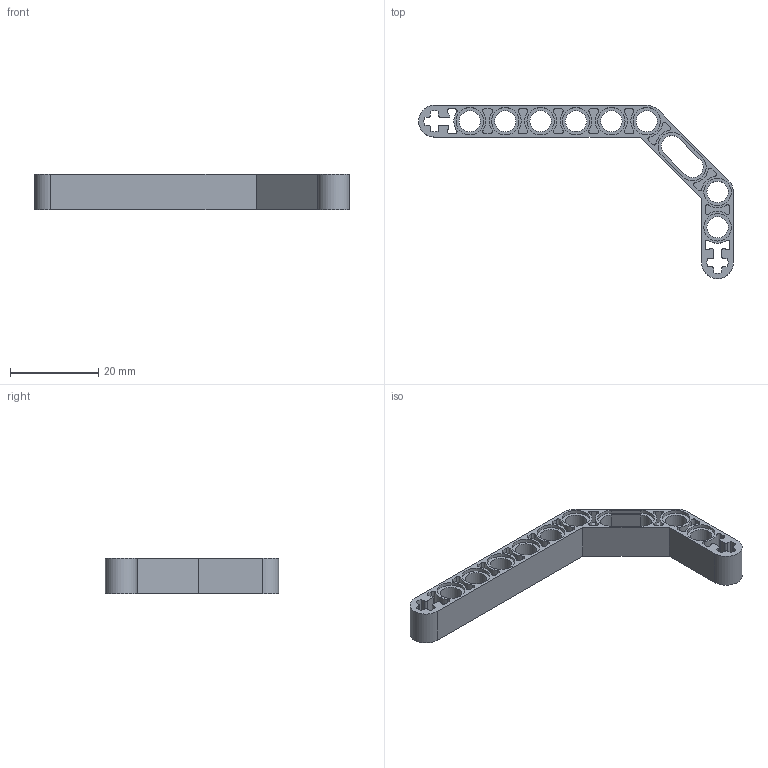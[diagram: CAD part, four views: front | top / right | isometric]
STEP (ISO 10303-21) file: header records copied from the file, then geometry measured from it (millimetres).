
FILE_DESCRIPTION(/* description */ ('Unknown'),/* implementation_level */ '2;1');
FILE_NAME(/* name */ 'Black_4111998_AVV',/* time_stamp */ '2025-07-21T23:44:26+02:00',/* author */ ('Unknown'),/* organization */ ('Unknown'),/* preprocessor_version */ 'ST-DEVELOPER v19.4',/* originating_system */ 'Solid Edge',/* authorisation */ 'Unknown');
FILE_SCHEMA (('AUTOMOTIVE_DESIGN {1 0 10303 214 3 1 1}'));
Length unit declared in the file: millimetre
Products named in the file (1): Black_4111998_AVV
Bounding box: 71.2 x 39.2 x 8 mm (x, y, z)
Volume: 2777.3 mm3; surface area: 4909.3 mm2
Topology: 1 solids, 1 shells, 273 faces, 727 edges, 490 vertices
Faces by surface type: cylinder 173, plane 100
Full cylindrical faces by diameter (mm): 4.8 x8, 6.2 x16
Entity records: 8485 total; most frequent: DIRECTION 1581, CARTESIAN_POINT 1435, ORIENTED_EDGE 1374, EDGE_CURVE 687, AXIS2_PLACEMENT_3D 620, VERTEX_POINT 474, EDGE_LOOP 353, FACE_BOUND 353
